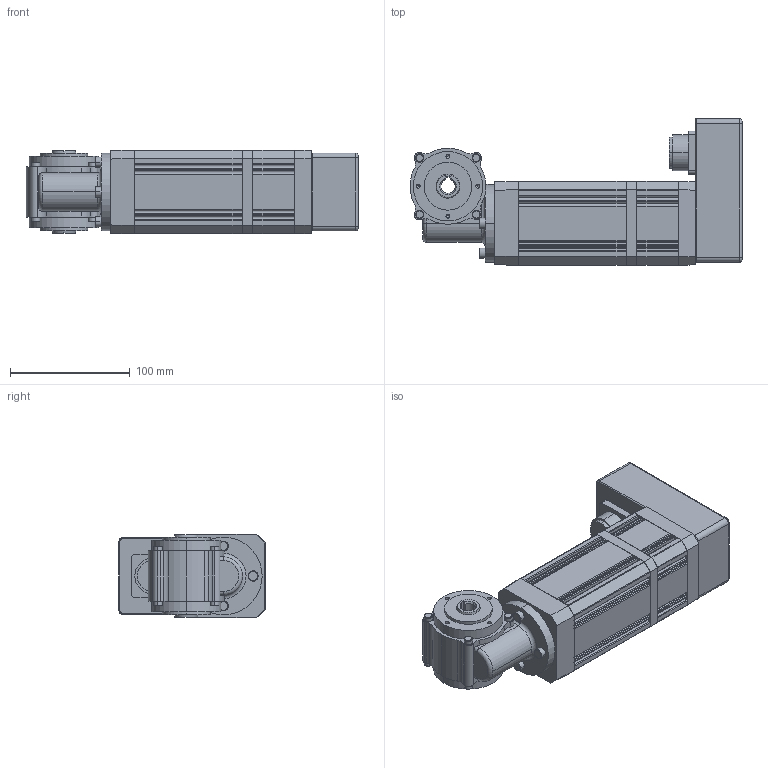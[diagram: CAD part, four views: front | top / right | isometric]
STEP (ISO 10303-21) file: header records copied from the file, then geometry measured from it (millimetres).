
FILE_DESCRIPTION(('OneSpaceDesigner STEP Export'),'2;1');
FILE_NAME('UECG303THL_GB12.stp','2009-09-14T13:41:53',(''),(''),'OneSpace Designer STEP processor (Jan. 2003) for AP214(CD)(Solid Model)','OneSpace Designer 12.01D 09-Jul-2004 (C) CoCreate Software GmbH','');
FILE_SCHEMA(('AUTOMOTIVE_DESIGN_CC2 {1 2 10303 214 -1 1 5 1}'));
Length unit declared in the file: millimetre
Products named in the file (2): UECG303THL_GB12_F
Assembly tree (1 placements, depth 2):
  UECG303THL_GB12_F
    UECG303THL_GB12_F
Bounding box: 277.75 x 122.6 x 70.2 mm (x, y, z)
Volume: 1342174.7 mm3; surface area: 119485.3 mm2
Topology: 1 solids, 1 shells, 515 faces, 1404 edges, 917 vertices
Faces by surface type: cylinder 258, plane 199, cone 48, torus 10
Entity records: 15805 total; most frequent: CARTESIAN_POINT 3419, ORIENTED_EDGE 2776, DIRECTION 2360, EDGE_CURVE 1388, VERTEX_POINT 917, AXIS2_PLACEMENT_3D 801, VECTOR 758, LINE 758
